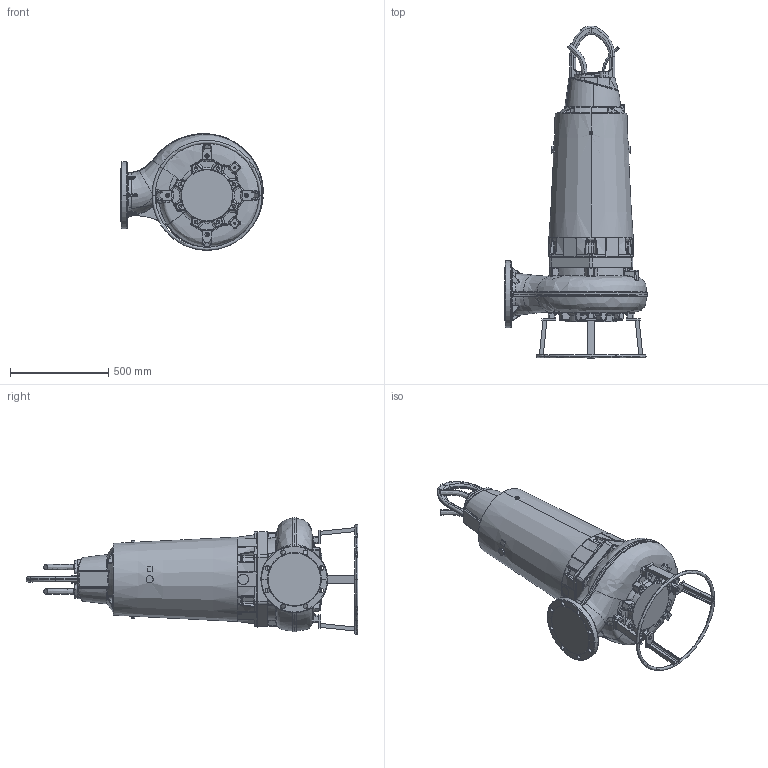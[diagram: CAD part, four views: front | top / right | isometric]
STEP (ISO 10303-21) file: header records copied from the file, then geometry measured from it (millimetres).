
FILE_DESCRIPTION (( 'STEP AP214' ), '1' );
FILE_NAME ('PE4_XFP200J-CH2_WET T_A_NG2.STEP', '2017-03-15T07:08:29', ( '' ), ( '' ), 'SwSTEP 2.0', 'SolidWorks 2017', '' );
FILE_SCHEMA (( 'AUTOMOTIVE_DESIGN' ));
Length unit declared in the file: millimetre
Products named in the file (1): PE4_XFP200J-CH2_WET T_A_NG2
Bounding box: 726.82 x 1690.4 x 593.75 mm (x, y, z)
Volume: 174405490.9 mm3; surface area: 2681938.4 mm2
Topology: 3 solids, 3 shells, 2242 faces, 5574 edges, 3273 vertices
Faces by surface type: bspline 816, plane 469, cylinder 421, cone 267, torus 233, sphere 36
Entity records: 158173 total; most frequent: CARTESIAN_POINT 87400, ORIENTED_EDGE 10924, DIRECTION 8008, EDGE_CURVE 5462, AXIS2_PLACEMENT_3D 3317, VERTEX_POINT 3273, EDGE_LOOP 2321, UNCERTAINTY_MEASURE_WITH_UNIT 2247
